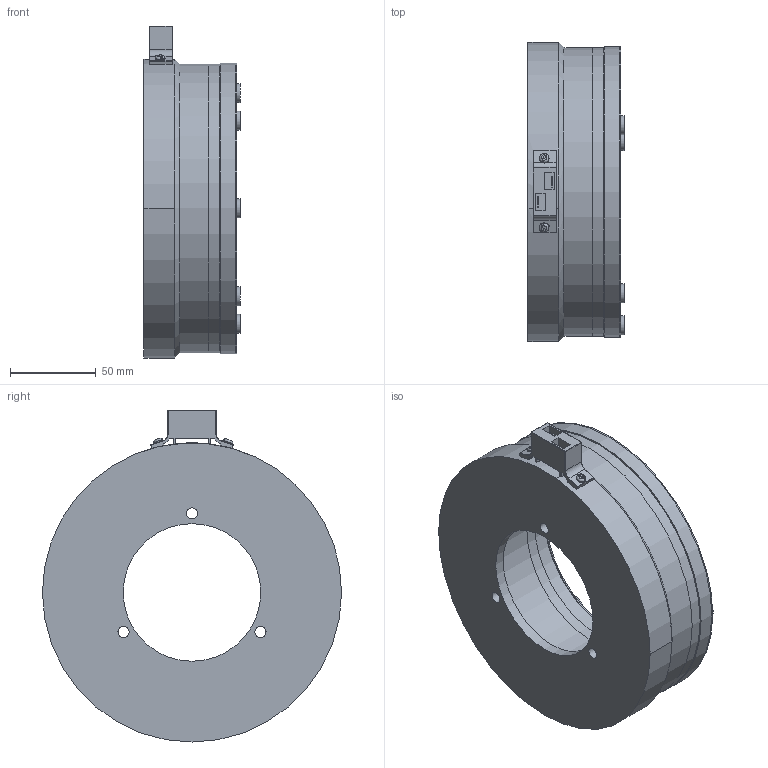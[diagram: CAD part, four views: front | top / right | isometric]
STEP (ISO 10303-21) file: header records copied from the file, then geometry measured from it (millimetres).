
FILE_DESCRIPTION(/* description */ (''),/* implementation_level */ '2;1');
FILE_NAME(/* name */ 'X:\INVENTOR\DISEGNI\08_Freni_Friz_Elettmag_Monodisco\08_28 EMFL_DF\EMFL_DF STEP\08_28_170_11 EMFL170_DF-B_S@STEP.stp',/* time_stamp */ '2018-04-23T15:58:48+02:00',/* author */ ('stefano'),/* organization */ (''),/* preprocessor_version */ 'ST-DEVELOPER v17',/* originating_system */ 'Autodesk Inventor 2018',/* authorisation */ '');
FILE_SCHEMA (('AUTOMOTIVE_DESIGN { 1 0 10303 214 3 1 1 }'));
Length unit declared in the file: millimetre
Products named in the file (1): 08_28_170_11 EMFL170_DF-B - Spina_Substitute_1
Bounding box: 56 x 174 x 193.14 mm (x, y, z)
Volume: 635629.3 mm3; surface area: 169022.9 mm2
Topology: 1 solids, 1 shells, 364 faces, 1052 edges, 663 vertices
Faces by surface type: cylinder 206, plane 95, torus 29, sphere 20, cone 14
Full cylindrical faces by diameter (mm): 5.6 x2, 6 x1, 6.1 x3, 6.5 x3, 11 x12, 80 x1, 104 x2, 105 x1, 106 x1, 122 x1, 129 x2, 149 x2, 155 x1, 168 x2, 169 x2
Entity records: 13038 total; most frequent: CARTESIAN_POINT 2532, DIRECTION 2357, ORIENTED_EDGE 2058, EDGE_CURVE 1029, AXIS2_PLACEMENT_3D 1005, VERTEX_POINT 663, CIRCLE 640, EDGE_LOOP 442
